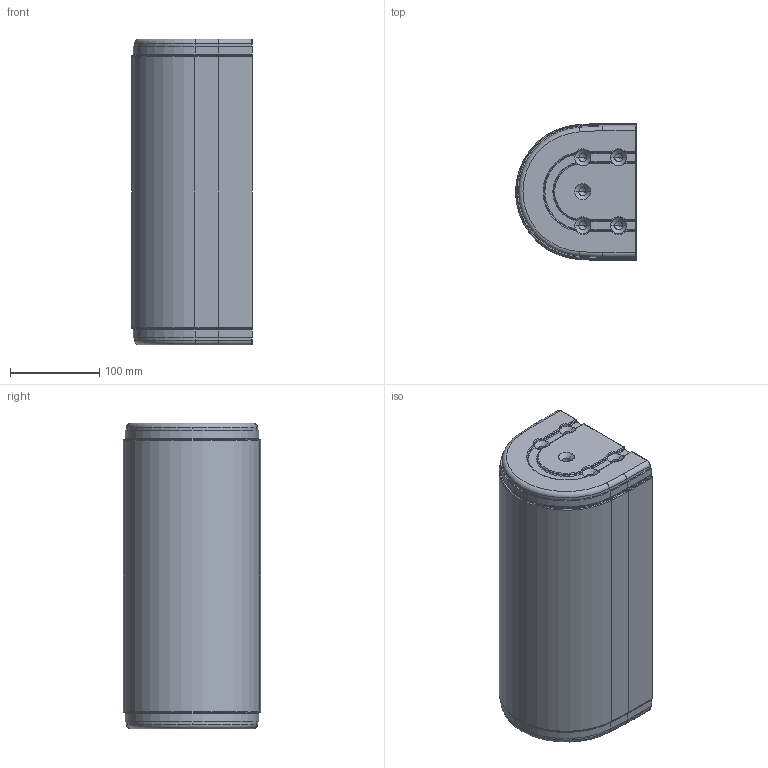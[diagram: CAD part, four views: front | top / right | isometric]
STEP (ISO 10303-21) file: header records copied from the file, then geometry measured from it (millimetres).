
FILE_DESCRIPTION (( 'STEP AP214' ), '1' );
FILE_NAME ('F2 1200 R.step', '2017-04-05T06:47:45', ( '' ), ( '' ), 'SwSTEP 2.0', 'SolidWorks 2015', '' );
FILE_SCHEMA (( 'AUTOMOTIVE_DESIGN' ));
Length unit declared in the file: millimetre
Products named in the file (1): F2 1200 R
Bounding box: 135.3 x 153.4 x 342 mm (x, y, z)
Volume: 6120241.5 mm3; surface area: 213304.6 mm2
Topology: 1 solids, 1 shells, 273 faces, 679 edges, 382 vertices
Faces by surface type: cylinder 120, plane 65, torus 40, cone 40, sphere 8
Entity records: 8646 total; most frequent: CARTESIAN_POINT 1843, DIRECTION 1385, ORIENTED_EDGE 1302, EDGE_CURVE 651, AXIS2_PLACEMENT_3D 530, VERTEX_POINT 382, LINE 325, VECTOR 325
